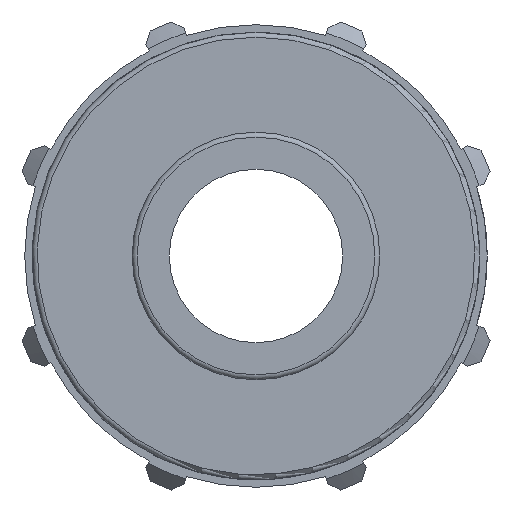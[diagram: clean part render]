
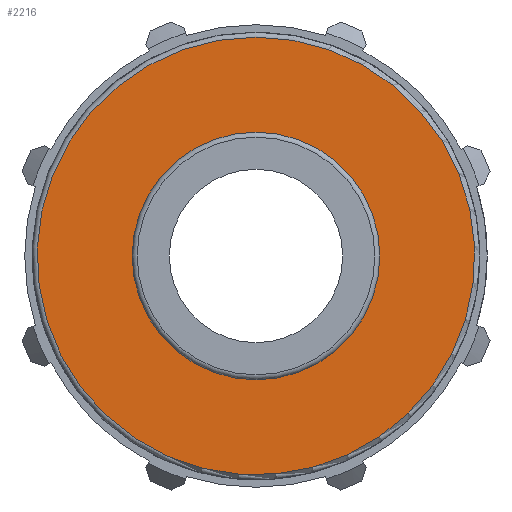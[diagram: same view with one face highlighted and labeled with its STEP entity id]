
A CAD part, left-side view. The second image highlights one B-rep face of the part: STEP entity #2216.
In plain terms, the highlighted planar face has unit normal (-1, 0, 0).
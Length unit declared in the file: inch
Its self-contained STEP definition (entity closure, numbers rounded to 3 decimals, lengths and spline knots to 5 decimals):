
#422=FACE_BOUND('',#639,.T.);
#435=PLANE('',#2401);
#514=FACE_OUTER_BOUND('',#638,.T.);
#638=EDGE_LOOP('',(#1534,#1535));
#639=EDGE_LOOP('',(#1536,#1537));
#746=CIRCLE('',#2341,0.941);
#747=CIRCLE('',#2342,0.941);
#784=CIRCLE('',#2399,1.66313);
#785=CIRCLE('',#2400,1.66313);
#863=VERTEX_POINT('',#3209);
#864=VERTEX_POINT('',#3210);
#930=VERTEX_POINT('',#3599);
#931=VERTEX_POINT('',#3601);
#1087=EDGE_CURVE('',#863,#864,#746,.T.);
#1088=EDGE_CURVE('',#864,#863,#747,.T.);
#1175=EDGE_CURVE('',#930,#931,#784,.T.);
#1176=EDGE_CURVE('',#931,#930,#785,.T.);
#1534=ORIENTED_EDGE('',*,*,#1176,.F.);
#1535=ORIENTED_EDGE('',*,*,#1175,.F.);
#1536=ORIENTED_EDGE('',*,*,#1087,.T.);
#1537=ORIENTED_EDGE('',*,*,#1088,.T.);
#2216=ADVANCED_FACE('',(#514,#422),#435,.T.);
#2341=AXIS2_PLACEMENT_3D('',#3211,#2589,#2590);
#2342=AXIS2_PLACEMENT_3D('',#3212,#2591,#2592);
#2399=AXIS2_PLACEMENT_3D('',#3602,#2731,#2732);
#2400=AXIS2_PLACEMENT_3D('',#3603,#2733,#2734);
#2401=AXIS2_PLACEMENT_3D('',#3604,#2735,#2736);
#2589=DIRECTION('center_axis',(1.,0.,0.));
#2590=DIRECTION('ref_axis',(0.,0.,-1.));
#2591=DIRECTION('center_axis',(1.,0.,0.));
#2592=DIRECTION('ref_axis',(0.,0.,-1.));
#2731=DIRECTION('center_axis',(1.,0.,0.));
#2732=DIRECTION('ref_axis',(0.,-0.552,0.834));
#2733=DIRECTION('center_axis',(1.,0.,0.));
#2734=DIRECTION('ref_axis',(0.,-0.552,0.834));
#2735=DIRECTION('center_axis',(-1.,0.,0.));
#2736=DIRECTION('ref_axis',(0.,0.,1.));
#3209=CARTESIAN_POINT('',(0.87,0.941,0.));
#3210=CARTESIAN_POINT('',(0.87,-0.941,0.));
#3211=CARTESIAN_POINT('Origin',(0.87,0.,0.));
#3212=CARTESIAN_POINT('Origin',(0.87,0.,0.));
#3599=CARTESIAN_POINT('',(0.87,0.,1.66313));
#3601=CARTESIAN_POINT('',(0.87,0.91758,-1.3871));
#3602=CARTESIAN_POINT('Origin',(0.87,0.,0.));
#3603=CARTESIAN_POINT('Origin',(0.87,0.,0.));
#3604=CARTESIAN_POINT('Origin',(0.87,1.701,0.));
